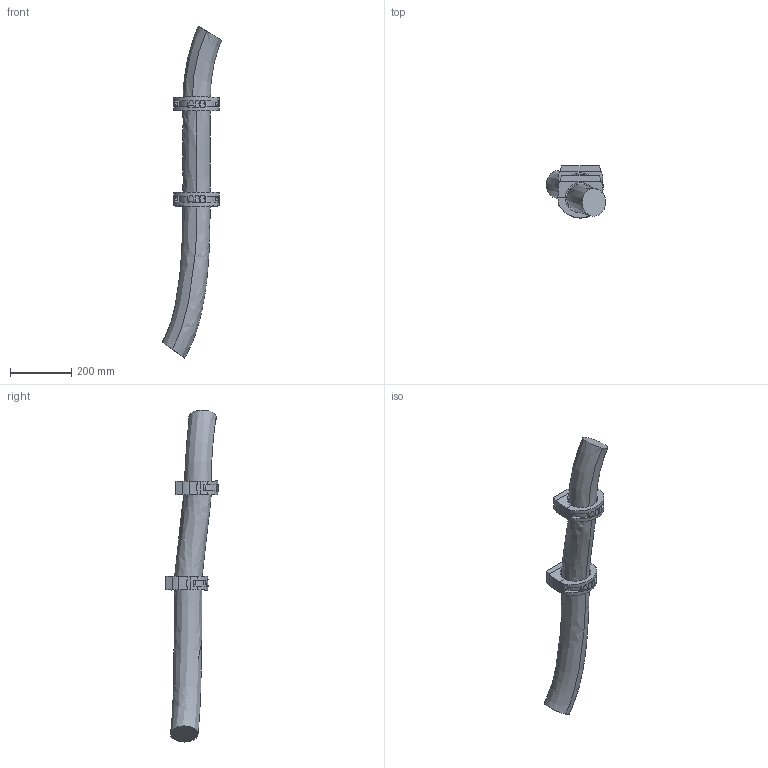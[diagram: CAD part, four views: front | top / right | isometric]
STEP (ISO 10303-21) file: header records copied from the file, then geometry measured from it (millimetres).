
FILE_DESCRIPTION (( 'STEP AP214' ), '1' );
FILE_NAME ('IRB5710-LID-SW_70kg-270_OC_00_LINK02_CABLE.step', '2025-07-07T14:19:21', ( '' ), ( '' ), 'SwSTEP 2.0', 'SolidWorks 2024', '' );
FILE_SCHEMA (( 'AUTOMOTIVE_DESIGN' ));
Length unit declared in the file: millimetre
Products named in the file (1): IRB5710-LID-SW_70kg-270_OC_00_LINK02_CABLE
Bounding box: 194.46 x 170.99 x 1087.36 mm (x, y, z)
Volume: 7566489.9 mm3; surface area: 427898.7 mm2
Topology: 1 solids, 5 shells, 274 faces, 686 edges, 448 vertices
Faces by surface type: plane 152, cylinder 60, cone 32, bspline 22, sphere 8
Entity records: 11432 total; most frequent: CARTESIAN_POINT 4820, ORIENTED_EDGE 1372, DIRECTION 1318, EDGE_CURVE 686, AXIS2_PLACEMENT_3D 489, VERTEX_POINT 448, LINE 340, VECTOR 340
